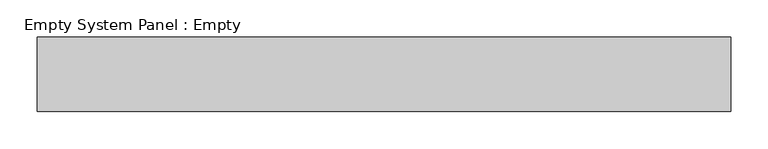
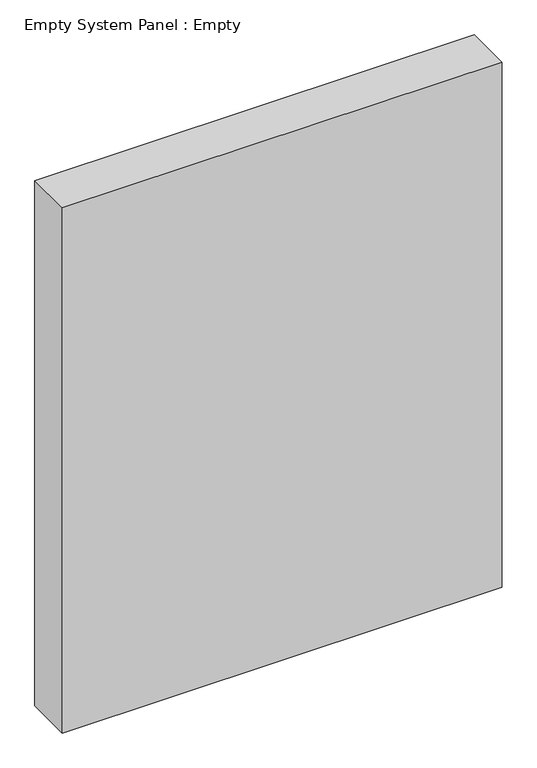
"""IFC4 building model written with IfcOpenShell, lengths in millimetres: plate geometry, Empty System Panel : Empty."""

from ifc_helpers import new_model, si_unit, origin, origin_with_axes, place, context, project, spatial, polyline, outline, extrude, source, transform, mapped, element, save


def empty_system_panel_empty_13eba526(model_context):
    return source(origin(), model_context, "Body", "SweptSolid", [
        extrude(outline(polyline([(464.2950184, -50.0), (-464.2950184, -50.0), (-464.2950184, 50.0), (464.2950184, 50.0), (464.2950184, -50.0)])), origin_with_axes(), (0.0, 0.0, 1.0), 1172.5),
    ])


if __name__ == "__main__":
    model = new_model("IFC4")
    model_context = context("Model", 3, world=origin())
    ifc_project = project(units=[si_unit("LENGTHUNIT", "METRE", prefix="MILLI")], contexts=[model_context])
    site = spatial("IfcSite", under=ifc_project)
    building = spatial("IfcBuilding", under=site)
    placement = place(None, origin())
    empty_system_panel_empty_shape = empty_system_panel_empty_13eba526(model_context)
    element("IfcPlate", 1, ObjectType="Empty System Panel : Empty", at=placement, inside=building, context=model_context, shape_type="MappedRepresentation", body=[
        mapped(empty_system_panel_empty_shape, transform((0.0, 0.0, 0.0), x_axis=(1.0, 0.0, 0.0), y_axis=(0.0, 1.0, 0.0), z_axis=(0.0, 0.0, 1.0))),
    ])
    save(model, "model.ifc")
